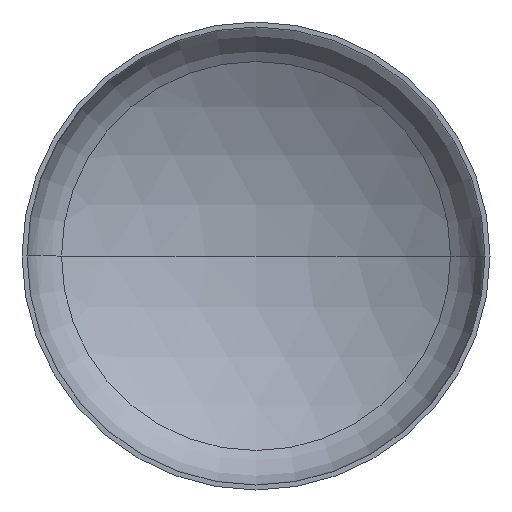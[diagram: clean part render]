
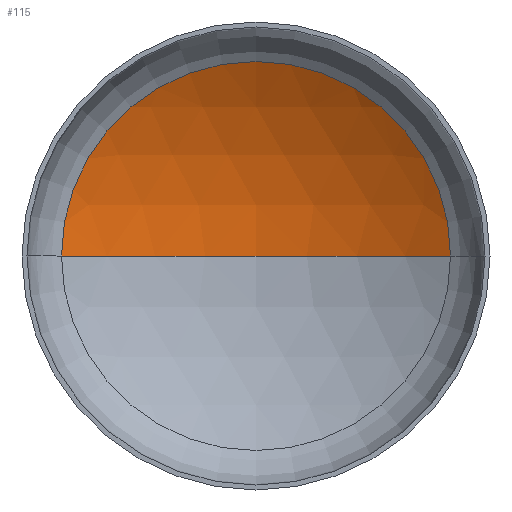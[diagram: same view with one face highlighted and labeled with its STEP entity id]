
A CAD part, front view. The second image highlights one B-rep face of the part: STEP entity #115.
In plain terms, the highlighted spherical face has radius 2400 mm.
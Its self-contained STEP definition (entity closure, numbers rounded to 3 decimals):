
#2 = DIRECTION ( 'NONE',  ( -1., 0., 0. ) ) ;
#4 = DIRECTION ( 'NONE',  ( 0., 0., -1. ) ) ;
#6 = DIRECTION ( 'NONE',  ( 0., 0., 1. ) ) ;
#7 = CARTESIAN_POINT ( 'NONE',  ( 0., -1557.569, 0. ) ) ;
#17 = DIRECTION ( 'NONE',  ( 0., 0., -1. ) ) ;
#23 = EDGE_LOOP ( 'NONE', ( #35, #91, #49 ) ) ;
#27 = AXIS2_PLACEMENT_3D ( 'NONE', #224, #17, #89 ) ;
#30 = AXIS2_PLACEMENT_3D ( 'NONE', #7, #6, #136 ) ;
#32 = AXIS2_PLACEMENT_3D ( 'NONE', #377, #4, #2 ) ;
#35 = ORIENTED_EDGE ( 'NONE', *, *, #88, .F. ) ;
#37 = AXIS2_PLACEMENT_3D ( 'NONE', #200, #201, #202 ) ;
#49 = ORIENTED_EDGE ( 'NONE', *, *, #85, .T. ) ;
#58 = VERTEX_POINT ( 'NONE', #264 ) ;
#70 = VERTEX_POINT ( 'NONE', #322 ) ;
#85 = EDGE_CURVE ( 'NONE', #139, #70, #282, .T. ) ;
#87 = EDGE_CURVE ( 'NONE', #58, #139, #216, .T. ) ;
#88 = EDGE_CURVE ( 'NONE', #58, #70, #110, .T. ) ;
#89 = DIRECTION ( 'NONE',  ( -1., 0., 0. ) ) ;
#91 = ORIENTED_EDGE ( 'NONE', *, *, #87, .T. ) ;
#110 = CIRCLE ( 'NONE', #30, 2400. ) ;
#115 = ADVANCED_FACE ( 'NONE', ( #274 ), #389, .F. ) ;
#136 = DIRECTION ( 'NONE',  ( 1., 0., 0. ) ) ;
#139 = VERTEX_POINT ( 'NONE', #197 ) ;
#197 = CARTESIAN_POINT ( 'NONE',  ( 1247.01, 493.032, 0. ) ) ;
#200 = CARTESIAN_POINT ( 'NONE',  ( 0., 493.032, 0. ) ) ;
#201 = DIRECTION ( 'NONE',  ( 0., -1., 0. ) ) ;
#202 = DIRECTION ( 'NONE',  ( 1., 0., 0. ) ) ;
#216 = CIRCLE ( 'NONE', #32, 2400. ) ;
#224 = CARTESIAN_POINT ( 'NONE',  ( 0., -1557.569, 0. ) ) ;
#264 = CARTESIAN_POINT ( 'NONE',  ( 0., 842.431, 0. ) ) ;
#274 = FACE_OUTER_BOUND ( 'NONE', #23, .T. ) ;
#282 = CIRCLE ( 'NONE', #37, 1247.01 ) ;
#322 = CARTESIAN_POINT ( 'NONE',  ( -1247.01, 493.032, 0. ) ) ;
#377 = CARTESIAN_POINT ( 'NONE',  ( 0., -1557.569, 0. ) ) ;
#389 = SPHERICAL_SURFACE ( 'NONE', #27, 2400. ) ;
